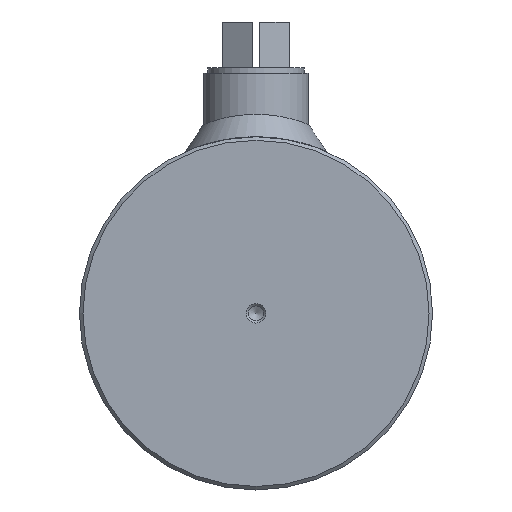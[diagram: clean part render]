
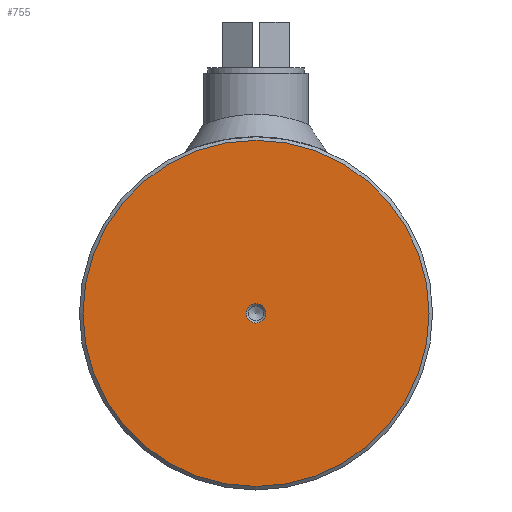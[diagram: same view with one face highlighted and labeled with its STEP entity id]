
A CAD part, left-side view. The second image highlights one B-rep face of the part: STEP entity #755.
In plain terms, the highlighted planar face has unit normal (-1, 0, 0).
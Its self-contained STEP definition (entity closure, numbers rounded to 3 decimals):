
#755 = ADVANCED_FACE( '', ( #1439, #1440 ), #1441, .F. );
#1439 = FACE_BOUND( '', #2930, .T. );
#1440 = FACE_OUTER_BOUND( '', #2931, .T. );
#1441 = PLANE( '', #2932 );
#2930 = EDGE_LOOP( '', ( #4368 ) );
#2931 = EDGE_LOOP( '', ( #4369 ) );
#2932 = AXIS2_PLACEMENT_3D( '', #4370, #4371, #4372 );
#4368 = ORIENTED_EDGE( '', *, *, #5137, .T. );
#4369 = ORIENTED_EDGE( '', *, *, #5248, .T. );
#4370 = CARTESIAN_POINT( '', ( -30., 0., 50. ) );
#4371 = DIRECTION( '', ( 1., 0., 0. ) );
#4372 = DIRECTION( '', ( 0., 0., -1. ) );
#5137 = EDGE_CURVE( '', #6217, #6217, #6218, .T. );
#5248 = EDGE_CURVE( '', #6377, #6377, #6378, .F. );
#6217 = VERTEX_POINT( '', #8071 );
#6218 = CIRCLE( '', #8072, 2.75 );
#6377 = VERTEX_POINT( '', #8915 );
#6378 = CIRCLE( '', #8916, 49. );
#8071 = CARTESIAN_POINT( '', ( -30., 0., -2.75 ) );
#8072 = AXIS2_PLACEMENT_3D( '', #9539, #9540, #9541 );
#8915 = CARTESIAN_POINT( '', ( -30., 0., -49. ) );
#8916 = AXIS2_PLACEMENT_3D( '', #9669, #9670, #9671 );
#9539 = CARTESIAN_POINT( '', ( -30., 0., 0. ) );
#9540 = DIRECTION( '', ( 1., 0., 0. ) );
#9541 = DIRECTION( '', ( 0., 0., -1. ) );
#9669 = CARTESIAN_POINT( '', ( -30., 0., 0. ) );
#9670 = DIRECTION( '', ( 1., 0., 0. ) );
#9671 = DIRECTION( '', ( 0., 0., -1. ) );
